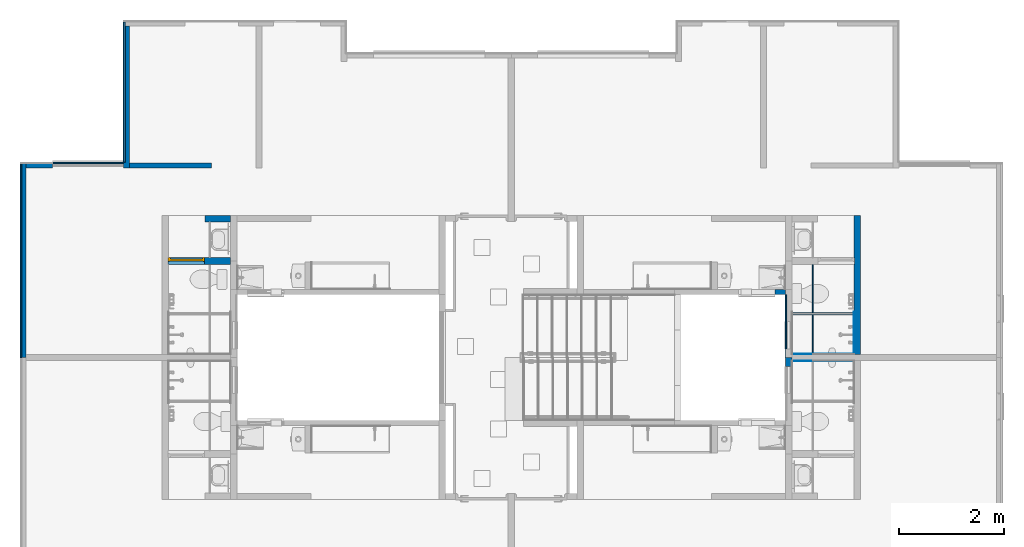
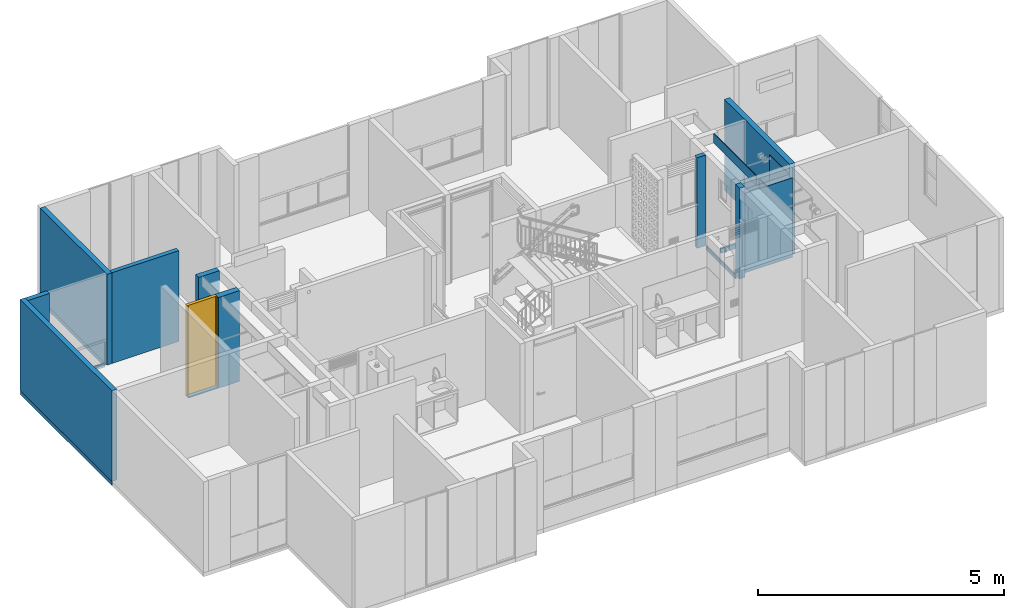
# One storey, part 15 of 48: 18 walls, 1 door, 2 openings.
"""IFC4 building model written with IfcOpenShell, lengths in metres."""

from ifc_helpers import new_model, entity, si_unit, converted_unit, derived_unit, direction, frame, origin, place, context, subcontext, project, spatial, indexed_curve, outline, extrude, polygons, source, transform, mapped, material, constituent, constituent_set, type_object, type_shapes, element, fill, save


model = new_model("IFC4")

# Units and contexts
model_context = context("Model", 3, precision=1e-05, world=origin(), true_north=direction((6.123031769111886e-17, 1.0)))
body_context = subcontext(model_context, "Body", "Model", "MODEL_VIEW")
ifc_project = project(units=[si_unit("LENGTHUNIT", "METRE"), si_unit("AREAUNIT", "SQUARE_METRE"), si_unit("VOLUMEUNIT", "CUBIC_METRE"), converted_unit("PLANEANGLEUNIT", "DEGREE", entity("IfcRatioMeasure", 0.017453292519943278), si_unit("PLANEANGLEUNIT", "RADIAN"), dimensions=[0, 0, 0, 0, 0, 0, 0]), si_unit("MASSUNIT", "GRAM", prefix="KILO"), derived_unit("MASSDENSITYUNIT", [(si_unit("MASSUNIT", "GRAM", prefix="KILO"), 1), (si_unit("LENGTHUNIT", "METRE"), -3)]), derived_unit("IONCONCENTRATIONUNIT", [(si_unit("MASSUNIT", "GRAM", prefix="KILO"), 1), (si_unit("LENGTHUNIT", "METRE"), -3)]), derived_unit("MOMENTOFINERTIAUNIT", [(si_unit("LENGTHUNIT", "METRE"), 4)]), si_unit("TIMEUNIT", "SECOND"), si_unit("FREQUENCYUNIT", "HERTZ"), si_unit("THERMODYNAMICTEMPERATUREUNIT", "DEGREE_CELSIUS"), derived_unit("THERMALTRANSMITTANCEUNIT", [(si_unit("MASSUNIT", "GRAM", prefix="KILO"), 1), (si_unit("THERMODYNAMICTEMPERATUREUNIT", "KELVIN"), -1), (si_unit("TIMEUNIT", "SECOND"), -3)]), derived_unit("THERMALCONDUCTANCEUNIT", [(si_unit("MASSUNIT", "GRAM", prefix="KILO"), 1), (si_unit("THERMODYNAMICTEMPERATUREUNIT", "KELVIN"), -1), (si_unit("TIMEUNIT", "SECOND"), -3), (si_unit("LENGTHUNIT", "METRE"), 1)]), derived_unit("VOLUMETRICFLOWRATEUNIT", [(si_unit("LENGTHUNIT", "METRE"), 3), (si_unit("TIMEUNIT", "SECOND"), -1)]), derived_unit("MASSFLOWRATEUNIT", [(si_unit("MASSUNIT", "GRAM", prefix="KILO"), 1), (si_unit("TIMEUNIT", "SECOND"), -1)]), derived_unit("ROTATIONALFREQUENCYUNIT", [(si_unit("TIMEUNIT", "SECOND"), -1)]), si_unit("ELECTRICCURRENTUNIT", "AMPERE"), si_unit("ELECTRICVOLTAGEUNIT", "VOLT"), si_unit("POWERUNIT", "WATT"), si_unit("FORCEUNIT", "NEWTON", prefix="KILO"), si_unit("ILLUMINANCEUNIT", "LUX"), si_unit("LUMINOUSFLUXUNIT", "LUMEN"), si_unit("LUMINOUSINTENSITYUNIT", "CANDELA"), derived_unit("USERDEFINED", [(si_unit("MASSUNIT", "GRAM", prefix="KILO"), -1), (si_unit("LENGTHUNIT", "METRE"), -2), (si_unit("TIMEUNIT", "SECOND"), 3), (si_unit("LUMINOUSFLUXUNIT", "LUMEN"), 1)]), derived_unit("USERDEFINED", [(si_unit("MASSUNIT", "GRAM", prefix="KILO"), 1), (si_unit("TIMEUNIT", "SECOND"), -3), (si_unit("LENGTHUNIT", "METRE"), 3), (si_unit("ELECTRICCURRENTUNIT", "AMPERE"), -2)]), derived_unit("SOUNDPOWERUNIT", [(si_unit("MASSUNIT", "GRAM", prefix="KILO"), 1), (si_unit("TIMEUNIT", "SECOND"), -3), (si_unit("LENGTHUNIT", "METRE"), 2)]), derived_unit("SOUNDPRESSUREUNIT", [(si_unit("MASSUNIT", "GRAM", prefix="KILO"), 1), (si_unit("LENGTHUNIT", "METRE"), -1), (si_unit("TIMEUNIT", "SECOND"), -2)]), derived_unit("LINEARVELOCITYUNIT", [(si_unit("LENGTHUNIT", "METRE"), 1), (si_unit("TIMEUNIT", "SECOND"), -1)]), si_unit("PRESSUREUNIT", "PASCAL"), derived_unit("USERDEFINED", [(si_unit("MASSUNIT", "GRAM", prefix="KILO"), 1), (si_unit("LENGTHUNIT", "METRE"), -2), (si_unit("TIMEUNIT", "SECOND"), -2)]), derived_unit("LINEARFORCEUNIT", [(si_unit("MASSUNIT", "GRAM", prefix="KILO"), 1), (si_unit("TIMEUNIT", "SECOND"), -2)]), derived_unit("PLANARFORCEUNIT", [(si_unit("MASSUNIT", "GRAM", prefix="KILO"), 1), (si_unit("LENGTHUNIT", "METRE"), -1), (si_unit("TIMEUNIT", "SECOND"), -2)]), derived_unit("SPECIFICHEATCAPACITYUNIT", [(si_unit("THERMODYNAMICTEMPERATUREUNIT", "KELVIN"), -1), (si_unit("LENGTHUNIT", "METRE"), 2), (si_unit("TIMEUNIT", "SECOND"), -2)]), derived_unit("HEATINGVALUEUNIT", [(si_unit("LENGTHUNIT", "METRE"), 2), (si_unit("TIMEUNIT", "SECOND"), -2)]), derived_unit("VAPORPERMEABILITYUNIT", [(si_unit("LENGTHUNIT", "METRE"), -1), (si_unit("TIMEUNIT", "SECOND"), 1)]), derived_unit("DYNAMICVISCOSITYUNIT", [(si_unit("MASSUNIT", "GRAM", prefix="KILO"), 1), (si_unit("TIMEUNIT", "SECOND"), -1), (si_unit("LENGTHUNIT", "METRE"), -1)]), derived_unit("THERMALEXPANSIONCOEFFICIENTUNIT", [(si_unit("THERMODYNAMICTEMPERATUREUNIT", "KELVIN"), -1)]), derived_unit("MODULUSOFELASTICITYUNIT", [(si_unit("MASSUNIT", "GRAM", prefix="KILO"), 1), (si_unit("LENGTHUNIT", "METRE"), -1), (si_unit("TIMEUNIT", "SECOND"), -2)]), derived_unit("ISOTHERMALMOISTURECAPACITYUNIT", [(si_unit("LENGTHUNIT", "METRE"), 3), (si_unit("MASSUNIT", "GRAM", prefix="KILO"), -1)]), derived_unit("MOISTUREDIFFUSIVITYUNIT", [(si_unit("TIMEUNIT", "SECOND"), -1), (si_unit("LENGTHUNIT", "METRE"), 2)])], contexts=[model_context])

# Site, building, storey
site_placement = place(None, origin())
site = spatial("IfcSite", under=ifc_project, at=site_placement, Name="Default", CompositionType="ELEMENT")
building_placement = place(site_placement, origin())
building = spatial("IfcBuilding", under=site, at=building_placement, CompositionType="ELEMENT")
storey_placement = place(building_placement, frame((0.0, 0.0, 4.700000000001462)))
storey = spatial("IfcBuildingStorey", under=building, at=storey_placement, Name="Nivel 3", CompositionType="ELEMENT", Elevation=4.700000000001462)

# Walls
ifc_material_1 = material(Name="Ladrillo claro (Aire)", Category="Materials")
wall_type_1 = type_object("IfcWallType", Name="Basic Wall:B2010 - 0.115m - Muro exterior en mampostería - Ladrillo", PredefinedType="STANDARD")
wall_1_placement = place(storey_placement, frame((0.0, -2.6950000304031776, 0.0), z_axis=(0.0, 0.0, 1.0), x_axis=(0.0, -1.0, 0.0)))
element("IfcWall", 1, at=wall_1_placement, inside=storey, type_object=wall_type_1, material=ifc_material_1, Name="Basic Wall:B2010 - 0.115m - Muro exterior en mampostería - Ladrillo", ObjectType="Basic Wall:B2010 - 0.115m - Muro exterior en mampostería - Ladrillo", PredefinedType="NOTDEFINED", context=body_context, shape_type="SweptSolid", body=[
    extrude(outline(indexed_curve([(3.7299999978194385, 0.0575), (-8.90011336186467e-17, 0.0575), (8.90011336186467e-17, -0.0575), (3.7299999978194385, -0.0575), (3.7299999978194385, 0.0575)], self_intersect=False)), origin(), (0.0, 0.0, 1.0), 2.2500000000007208),
])
wall_2_placement = place(storey_placement, frame((1.9749999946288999, -2.8100000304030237, 0.0), z_axis=(0.0, 0.0, 1.0), x_axis=(0.0, 1.0, 0.0)))
element("IfcWall", 2, at=wall_2_placement, inside=storey, type_object=wall_type_1, material=ifc_material_1, Name="Basic Wall:B2010 - 0.115m - Muro exterior en mampostería - Ladrillo", ObjectType="Basic Wall:B2010 - 0.115m - Muro exterior en mampostería - Ladrillo", PredefinedType="NOTDEFINED", context=body_context, shape_type="SweptSolid", body=[
    extrude(outline(indexed_curve([(2.7150000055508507, 0.05750000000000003), (-1.0301981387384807e-16, 0.057499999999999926), (1.0301981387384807e-16, -0.057499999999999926), (2.7150000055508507, -0.057499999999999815), (2.7150000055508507, 0.05750000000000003)], self_intersect=False)), origin(), (0.0, 0.0, 1.0), 2.2500000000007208),
])
ifc_material_2 = material(Name="LADRILLO CLARO", Category="Materials")
wall_type_2 = type_object("IfcWallType", Name="Basic Wall:B2010 - 0.115m - ME mampostería no estructural - Ladrillo", PredefinedType="STANDARD")
wall_3_placement = place(storey_placement, frame((0.05750000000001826, -2.7525000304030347, 0.0)))
element("IfcWall", 3, at=wall_3_placement, inside=storey, type_object=wall_type_2, material=ifc_material_2, Name="Basic Wall:B2010 - 0.115m - ME mampostería no estructural - Ladrillo", ObjectType="Basic Wall:B2010 - 0.115m - ME mampostería no estructural - Ladrillo", PredefinedType="NOTDEFINED", context=body_context, shape_type="SweptSolid", body=[
    extrude(outline(indexed_curve([(0.5099999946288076, 0.05749999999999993), (-3.859013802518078e-18, 0.057499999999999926), (3.859013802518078e-18, -0.057499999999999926), (0.5099999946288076, -0.05749999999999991), (0.5099999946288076, 0.05749999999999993)], self_intersect=False)), origin(), (0.0, 0.0, 1.0), 2.2500000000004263),
])
ifc_material_3 = material(Name="Concreto (Aire)", Category="Materials")
wall_type_3 = type_object("IfcWallType", Name="Basic Wall:B2010 - 0.10m - Muro interior en concreto", PredefinedType="STANDARD")
wall_4_placement = place(storey_placement, frame((2.032499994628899, -2.7600000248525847, 0.0)))
element("IfcWall", 4, at=wall_4_placement, inside=storey, type_object=wall_type_3, material=ifc_material_3, Name="Basic Wall:B2010 - 0.10m - Muro interior en concreto", ObjectType="Basic Wall:B2010 - 0.10m - Muro interior en concreto", PredefinedType="NOTDEFINED", context=body_context, shape_type="SweptSolid", body=[
    extrude(outline(indexed_curve([(1.5699999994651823, 0.04999999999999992), (6.03923499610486e-18, 0.05), (-6.03923499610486e-18, -0.05), (1.5699999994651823, -0.050000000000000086), (1.5699999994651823, 0.04999999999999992)], self_intersect=False)), origin(), (0.0, 0.0, 1.0), 2.2499999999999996),
])
ifc_material_4 = material(Name="Pañete", Category="Materials")
ifc_constituent_1 = constituent(ifc_material_4, Name="Pañete", Category="Materials")
ifc_constituent_2 = constituent(ifc_material_1, Name="Ladrillo claro (Aire)", Category="Materials")
ifc_constituent_set_1 = constituent_set(constituents=[ifc_constituent_1, ifc_constituent_2], Name="Basic Wall:B2010 - 0.115m - Muro interior en mampostería - Ladrillo + Pañete")
wall_type_4 = type_object("IfcWallType", Name="Basic Wall:B2010 - 0.115m - Muro interior en mampostería - Ladrillo + Pañete", PredefinedType="STANDARD", material=ifc_constituent_set_1)
wall_5_placement = place(storey_placement, frame((3.4724999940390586, -3.7725000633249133, 0.0)))
element("IfcWall", 5, at=wall_5_placement, inside=storey, type_object=wall_type_4, material=ifc_constituent_set_1, Name="Basic Wall:B2010 - 0.115m - Muro interior en mampostería - Ladrillo + Pañete", ObjectType="Basic Wall:B2010 - 0.115m - Muro interior en mampostería - Ladrillo + Pañete", PredefinedType="NOTDEFINED", context=body_context, shape_type="SweptSolid", body=[
    extrude(outline(indexed_curve([(-0.0050000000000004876, -0.24500000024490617), (0.004999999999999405, -0.24500000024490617), (0.005000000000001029, 0.24500000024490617), (-0.004999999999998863, 0.24500000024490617), (-0.0050000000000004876, -0.24500000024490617)], self_intersect=False)), frame((0.24500000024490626, -0.05750000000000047, 0.0), z_axis=(0.0, 0.0, 1.0), x_axis=(0.0, 1.0, 0.0)), (0.0, 0.0, 1.0), 2.2500000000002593),
    extrude(outline(indexed_curve([(-0.057499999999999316, -0.2450000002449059), (0.05750000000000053, -0.24500000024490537), (0.05749999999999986, 0.24500000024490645), (-0.05749999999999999, 0.24500000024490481), (-0.057499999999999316, -0.2450000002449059)], self_intersect=False)), frame((0.24500000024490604, 0.004999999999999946, 0.0), z_axis=(0.0, 0.0, 1.0), x_axis=(0.0, -1.0, 0.0)), (0.0, 0.0, 1.0), 2.2500000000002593),
])

# Wall, opening
wall_6_placement = place(storey_placement, frame((15.929998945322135, -3.7100000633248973, 0.0), z_axis=(0.0, 0.0, 1.0), x_axis=(0.0, -1.0, 0.0)))
wall_6 = element("IfcWall", 6, at=wall_6_placement, inside=storey, type_object=wall_type_4, material=ifc_constituent_set_1, Name="Basic Wall:B2010 - 0.115m - Muro interior en mampostería - Ladrillo + Pañete", ObjectType="Basic Wall:B2010 - 0.115m - Muro interior en mampostería - Ladrillo + Pañete", PredefinedType="NOTDEFINED", context=body_context, shape_type="SweptSolid", body=[
    extrude(outline(indexed_curve([(-0.7550000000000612, -1.1920833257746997), (1.4949999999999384, -1.1920833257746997), (1.4949999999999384, -0.38708332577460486), (-0.7249999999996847, -0.38708332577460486), (-0.7249999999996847, -0.2520833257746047), (1.4949999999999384, -0.2520833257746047), (1.4949999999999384, 1.4629166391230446), (-0.7550000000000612, 1.4629166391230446), (-0.7550000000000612, 0.7129166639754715), (-0.7550000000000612, 0.662916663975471), (-0.7550000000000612, -0.2520833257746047), (-0.7550000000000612, -0.38708332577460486), (-0.7550000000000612, -1.1920833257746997)], self_intersect=False)), frame((1.1920833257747, -0.062499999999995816, 0.7550000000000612), z_axis=(0.0, 1.0, 0.0), x_axis=(0.0, 0.0, 1.0)), (0.0, 0.0, 1.0), 0.009999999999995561),
    extrude(outline(indexed_curve([(-0.05750000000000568, -1.3274999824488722), (0.05749999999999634, -1.3274999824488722), (0.05750000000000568, 1.3274999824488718), (-0.05749999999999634, 1.3274999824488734), (-0.05750000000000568, -1.3274999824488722)], self_intersect=False)), frame((1.3274999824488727, 0.005000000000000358, 0.0), z_axis=(0.0, 0.0, 1.0), x_axis=(0.0, -1.0, 0.0)), (0.0, 0.0, 1.0), 2.2499999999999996),
])
opening_1_placement = place(wall_6_placement, origin())
element("IfcOpeningElement", 7, at=opening_1_placement, cuts=wall_6, Name="Basic Wall:B2010 - 0.115m - Muro interior en mampostería - Ladrillo + Pañete", PredefinedType="OPENING", context=body_context, shape_type="SweptSolid", body=[
    extrude(outline(indexed_curve([(-0.06749999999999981, -1.1099999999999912), (0.06750000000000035, -1.1099999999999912), (0.06750000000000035, 1.1099999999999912), (-0.06749999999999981, 1.1099999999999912), (-0.06749999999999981, -1.1099999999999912)], self_intersect=False)), frame((0.8725000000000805, -0.7524999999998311, 1.1400000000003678), z_axis=(0.0, 1.0, 0.0), x_axis=(1.0, 0.0, 0.0)), (0.0, 0.0, 1.0), 0.7000000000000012),
])

# Wall, opening, door
ifc_constituent_3 = constituent(ifc_material_4, Name="Pañete", Category="Materials")
ifc_constituent_4 = constituent(ifc_material_2, Name="LADRILLO CLARO", Category="Materials")
ifc_constituent_5 = constituent(ifc_material_4, Name="Pañete (2)", Category="Materials")
ifc_constituent_set_2 = constituent_set(constituents=[ifc_constituent_3, ifc_constituent_4, ifc_constituent_5], Name="Basic Wall:B2010 - 0.115m - MI  mampostería no estructural - Pañete + Ladrillo + Pañete")
wall_type_5 = type_object("IfcWallType", Name="Basic Wall:B2010 - 0.115m - MI  mampostería no estructural - Pañete + Ladrillo + Pañete", PredefinedType="STANDARD", material=ifc_constituent_set_2)
wall_7_placement = place(storey_placement, frame((3.962499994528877, -4.582500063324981, 0.0), z_axis=(0.0, 0.0, 1.0), x_axis=(-1.0, 0.0, 0.0)))
wall_7 = element("IfcWall", 8, at=wall_7_placement, inside=storey, type_object=wall_type_5, material=ifc_constituent_set_2, Name="Basic Wall:B2010 - 0.115m - MI  mampostería no estructural - Pañete + Ladrillo + Pañete", ObjectType="Basic Wall:B2010 - 0.115m - MI  mampostería no estructural - Pañete + Ladrillo + Pañete", PredefinedType="NOTDEFINED", context=body_context, shape_type="SweptSolid", body=[
    extrude(outline(indexed_curve([(-1.1325000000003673, -0.6649994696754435), (-1.102500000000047, -0.6649994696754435), (-1.102500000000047, 0.025000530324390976), (1.1175000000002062, 0.025000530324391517), (1.1175000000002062, 0.10999946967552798), (1.1175000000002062, 0.12999946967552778), (1.1175000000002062, 0.5199994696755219), (-1.1325000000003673, 0.5199994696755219), (-1.1325000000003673, -0.6649994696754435)], self_intersect=False)), frame((0.5199994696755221, 0.06750000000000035, 1.1325000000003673), z_axis=(0.0, -1.0, 0.0), x_axis=(0.0, 0.0, 1.0)), (0.0, 0.0, 1.0), 0.009999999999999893),
    extrude(outline(indexed_curve([(-0.7600000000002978, -0.6249996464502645), (-0.7299999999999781, -0.6249996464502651), (-0.7299999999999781, 0.06500035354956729), (1.4900000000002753, 0.06500035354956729), (1.4900000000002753, 0.5599992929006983), (-0.7600000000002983, 0.5599992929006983), (-0.7600000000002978, -0.6249996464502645)], self_intersect=False)), frame((0.5599992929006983, -0.05750000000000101, 0.7600000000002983), z_axis=(0.0, -1.0, 0.0), x_axis=(0.0, 0.0, 1.0)), (0.0, 0.0, 1.0), 0.010000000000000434),
    extrude(outline(indexed_curve([(-0.7600000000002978, -0.6316663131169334), (-0.7299999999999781, -0.6316663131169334), (-0.7299999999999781, 0.06833368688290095), (1.4900000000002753, 0.06833368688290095), (1.4900000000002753, 0.5633326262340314), (-0.7600000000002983, 0.5633326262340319), (-0.7600000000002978, -0.6316663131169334)], self_intersect=False)), frame((0.563332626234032, 0.057499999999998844, 0.7600000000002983), z_axis=(0.0, -1.0, 0.0), x_axis=(0.0, 0.0, 1.0)), (0.0, 0.0, 1.0), 0.11499999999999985),
])
opening_2_placement = place(wall_7_placement, frame((0.49499893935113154, -0.06749999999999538, 0.0299999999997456)))
opening_2 = element("IfcOpeningElement", 9, at=opening_2_placement, cuts=wall_7, Name="C1030 - Puerta batiente - Madera+Aluminio:C1030 - 0.70 x 2.22 - Puerta batiente - Madera+ Metal:1", PredefinedType="OPENING", context=body_context, shape_type="SweptSolid", body=[
    extrude(outline(indexed_curve([(-2.8961849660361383e-19, 1.3535839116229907e-16), (2.2199999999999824, 1.3535839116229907e-16), (2.2199999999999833, 0.7000000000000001), (1.438182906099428e-16, 0.7000000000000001), (-2.8961849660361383e-19, 1.3535839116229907e-16)], self_intersect=False)), frame((0.0, 0.0, 0.0), z_axis=(0.0, 1.0, 0.0), x_axis=(0.0, 0.0, 1.0)), (0.0, 0.0, 1.0), 0.13499999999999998),
])
ifc_material_5 = material(Name="<Unnamed>")
door_type = type_object("IfcDoorType", Name="C1030 - Puerta batiente - Madera+Aluminio:C1030 - 0.70 x 2.22 - Puerta batiente - Madera+ Metal", OperationType="SINGLE_SWING_RIGHT", PredefinedType="DOOR", material=ifc_material_5)
shared_shape = source(origin(), body_context, "Body", "Tessellation", [
    polygons([(0.030000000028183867, 0.06499999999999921, 0.009880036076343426), (0.6699999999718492, 0.06499999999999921, 0.009880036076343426), (0.6699999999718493, 0.0324999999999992, 0.009880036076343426), (0.030000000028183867, 0.0324999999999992, 0.009880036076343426), (0.030000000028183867, 0.06499999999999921, 2.2050000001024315), (0.030000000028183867, 0.0324999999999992, 2.2050000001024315), (0.6699999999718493, 0.0324999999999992, 2.2050000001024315), (0.6699999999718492, 0.06499999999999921, 2.2050000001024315)], [[[1, 2, 3, 4]], [[5, 1, 4, 6]], [[6, 4, 3, 7]], [[7, 3, 2, 8]], [[8, 2, 1, 5]], [[5, 6, 7, 8]]], closed=True),
    polygons([(0.015000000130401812, 0.0649999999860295, 0.0), (0.015000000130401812, 0.07999999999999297, 0.0), (0.030000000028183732, 0.07999999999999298, 0.0), (0.030000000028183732, 0.04000000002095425, 0.0), (0.045000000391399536, 0.04000000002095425, 0.0), (0.045000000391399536, -1.6919798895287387e-17, 0.0), (0.015000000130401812, -5.075939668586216e-17, 0.0), (0.015000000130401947, 0.007499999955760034, 0.0), (1.651372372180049e-14, 0.0074999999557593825, 0.0), (1.651372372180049e-14, 0.0649999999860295, 0.0), (1.651372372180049e-14, 0.0074999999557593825, 2.2199999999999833), (0.015000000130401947, 0.007499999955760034, 2.2199999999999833), (0.015000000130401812, 0.0649999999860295, 2.2199999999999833), (1.651372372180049e-14, 0.0649999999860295, 2.2199999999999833), (0.6849999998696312, 0.06499999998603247, 0.0), (0.7000000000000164, 0.06499999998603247, 0.0), (0.7000000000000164, 0.007499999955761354, 0.0), (0.6849999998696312, 0.007499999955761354, 0.0), (0.6849999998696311, 0.0, 0.0), (0.6549999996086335, 0.0, 0.0), (0.6549999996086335, 0.04000000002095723, 0.0), (0.6699999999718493, 0.04000000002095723, 0.0), (0.6699999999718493, 0.07999999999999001, 0.0), (0.6849999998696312, 0.07999999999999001, 0.0), (0.7000000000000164, 0.06499999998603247, 2.2199999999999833), (0.6849999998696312, 0.06499999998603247, 2.2199999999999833), (0.6849999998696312, 0.007499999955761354, 2.2199999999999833), (0.7000000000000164, 0.007499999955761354, 2.2199999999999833), (0.6549999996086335, 0.0, 2.189999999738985), (0.6549999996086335, 0.03250000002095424, 2.189999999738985), (0.6549999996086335, 0.03250000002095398, 2.2050000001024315), (0.6549999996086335, 0.04000000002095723, 2.2050000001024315), (0.045000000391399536, 0.04000000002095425, 2.2050000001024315), (0.045000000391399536, 0.03250000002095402, 2.2050000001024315), (0.045000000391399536, 0.032500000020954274, 2.189999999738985), (0.045000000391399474, -1.6919798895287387e-17, 2.189999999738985), (0.6699999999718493, 0.04000000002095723, 2.2050000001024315), (0.6699999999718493, 0.07249999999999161, 2.2050000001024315), (0.6699999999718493, 0.07249999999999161, 2.2199999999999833), (0.6699999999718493, 0.07999999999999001, 2.2199999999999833), (0.030000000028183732, 0.07999999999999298, 2.2199999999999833), (0.030000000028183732, 0.07249999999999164, 2.2199999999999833), (0.030000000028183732, 0.07249999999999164, 2.2050000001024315), (0.030000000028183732, 0.04000000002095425, 2.2050000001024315), (0.6849999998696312, 0.07999999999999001, 2.2199999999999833), (0.6849999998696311, 0.0, 2.2199999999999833), (0.015000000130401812, -5.075939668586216e-17, 2.2199999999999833), (0.015000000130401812, 0.07999999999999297, 2.2199999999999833)], [[[1, 2, 3, 4, 5, 6, 7, 8, 9, 10]], [[11, 9, 8, 12]], [[13, 1, 10, 14]], [[15, 16, 17, 18, 19, 20, 21, 22, 23, 24]], [[25, 16, 15, 26]], [[27, 18, 17, 28]], [[20, 29, 30, 31, 32, 21]], [[5, 33, 34, 35, 36, 6]], [[22, 37, 38, 39, 40, 23]], [[3, 41, 42, 43, 44, 4]], [[28, 17, 16, 25]], [[14, 10, 9, 11]], [[26, 15, 24, 45]], [[45, 24, 23, 40]], [[21, 32, 37, 22]], [[19, 46, 47, 7, 6, 36, 29, 20]], [[46, 19, 18, 27]], [[12, 8, 7, 47]], [[48, 2, 1, 13]], [[26, 45, 40, 39, 42, 41, 48, 13, 14, 11, 12, 47, 46, 27, 28, 25]], [[38, 37, 32, 31, 34, 33, 44, 43]], [[36, 35, 30, 29]], [[4, 44, 33, 5]], [[41, 3, 2, 48]], [[35, 34, 31, 30]], [[43, 42, 39, 38]]], closed=True),
])
type_shapes(door_type, [shared_shape])
door_placement = place(opening_2_placement, origin())
door = element("IfcDoor", 10, at=door_placement, inside=storey, type_object=door_type, material=ifc_material_5, Name="C1030 - Puerta batiente - Madera+Aluminio:C1030 - 0.70 x 2.22 - Puerta batiente - Madera+ Metal", ObjectType="C1030 - Puerta batiente - Madera+Aluminio:C1030 - 0.70 x 2.22 - Puerta batiente - Madera+ Metal", OperationType="SINGLE_SWING_RIGHT", OverallHeight=2.2199999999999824, OverallWidth=0.7000000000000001, PredefinedType="DOOR", context=body_context, shape_type="MappedRepresentation", body=[
    mapped(shared_shape, transform((0.0, 0.0, 0.0), scale=1.0)),
])
fill(opening_2, door)

# Walls
ifc_material_6 = material(Name="PINTURA BLANCA PARA EXTERIORES", Category="Materials")
ifc_constituent_6 = constituent(ifc_material_6, Name="PINTURA BLANCA PARA EXTERIORES", Category="Materials")
ifc_material_7 = material(Name="Concreto - Fundido in situ", Category="Materials")
ifc_constituent_7 = constituent(ifc_material_7, Name="Concreto - Fundido in situ", Category="Materials")
ifc_constituent_set_3 = constituent_set(constituents=[ifc_constituent_6, ifc_constituent_7], Name="Basic Wall:B2010 - 0.10m - MI no estructural- Concreto + repello+ pintura blanca")
wall_type_6 = type_object("IfcWallType", Name="Basic Wall:B2010 - 0.10m - MI no estructural- Concreto + repello+ pintura blanca", PredefinedType="STANDARD", material=ifc_constituent_set_3)
wall_8_placement = place(storey_placement, frame((14.557500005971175, -5.175000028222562, 0.0), z_axis=(0.0, 0.0, 1.0), x_axis=(-1.0, 0.0, 0.0)))
element("IfcWall", 11, at=wall_8_placement, inside=storey, type_object=wall_type_6, material=ifc_constituent_set_3, Name="Basic Wall:B2010 - 0.10m - MI no estructural- Concreto + repello+ pintura blanca", ObjectType="Basic Wall:B2010 - 0.10m - MI no estructural- Concreto + repello+ pintura blanca", PredefinedType="NOTDEFINED", context=body_context, shape_type="SweptSolid", body=[
    extrude(outline(indexed_curve([(-0.000500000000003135, -0.10000000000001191), (0.0004999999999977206, -0.10000000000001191), (0.0005000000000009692, 0.10000000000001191), (-0.0004999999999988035, 0.10000000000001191), (-0.000500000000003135, -0.10000000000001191)], self_intersect=False)), frame((0.10000000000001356, 0.04999999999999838, 0.0), z_axis=(0.0, 0.0, 1.0), x_axis=(0.0, -1.0, 0.0)), (0.0, 0.0, 1.0), 2.2499999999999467),
    extrude(outline(indexed_curve([(-0.04999999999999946, -0.10000000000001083), (0.050000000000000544, -0.10000000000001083), (0.04999999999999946, 0.10000000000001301), (-0.04999999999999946, 0.10000000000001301), (-0.04999999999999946, -0.10000000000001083)], self_intersect=False)), frame((0.10000000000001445, -0.0005000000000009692, 0.0), z_axis=(0.0, 0.0, 1.0), x_axis=(0.0, 1.0, 0.0)), (0.0, 0.0, 1.0), 2.2499999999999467),
])
ifc_material_8 = material(Name="Ceramica 0.25m x 0.35m", Category="Materials")
wall_type_7 = type_object("IfcWallType", Name="Basic Wall:C2010 - 0.25 x 0.35 - Enchape cerámico", PredefinedType="STANDARD")
wall_9_placement = place(storey_placement, frame((15.862498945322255, -6.365000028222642, 0.02999999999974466), z_axis=(0.0, 0.0, 1.0), x_axis=(0.0, 1.0, 0.0)))
element("IfcWall", 12, at=wall_9_placement, inside=storey, type_object=wall_type_7, material=ifc_material_8, Name="Basic Wall:C2010 - 0.25 x 0.35 - Enchape cerámico", ObjectType="Basic Wall:C2010 - 0.25 x 0.35 - Enchape cerámico", PredefinedType="NOTDEFINED", context=body_context, shape_type="SweptSolid", body=[
    extrude(outline(indexed_curve([(0.8099999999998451, 0.005000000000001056), (-1.654422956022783e-19, 0.005000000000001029), (1.654422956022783e-19, -0.005000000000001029), (0.8099999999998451, -0.005000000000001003), (0.8099999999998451, 0.005000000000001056)], self_intersect=False)), origin(), (0.0, 0.0, 1.0), 1.9700000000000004),
])
wall_10_placement = place(storey_placement, frame((15.857498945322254, -6.360000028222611, 0.029999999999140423), z_axis=(0.0, 0.0, 1.0), x_axis=(-1.0, 0.0, 0.0)))
element("IfcWall", 13, at=wall_10_placement, inside=storey, type_object=wall_type_7, material=ifc_material_8, Name="Basic Wall:C2010 - 0.25 x 0.35 - Enchape cerámico", ObjectType="Basic Wall:C2010 - 0.25 x 0.35 - Enchape cerámico", PredefinedType="NOTDEFINED", context=body_context, shape_type="SweptSolid", body=[
    extrude(outline(indexed_curve([(1.1649989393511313, 0.004999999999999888), (-9.047226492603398e-18, 0.004999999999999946), (9.047226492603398e-18, -0.004999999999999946), (1.1649989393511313, -0.0050000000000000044), (1.1649989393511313, 0.004999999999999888)], self_intersect=False)), origin(), (0.0, 0.0, 1.0), 1.9700000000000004),
])
wall_11_placement = place(storey_placement, frame((15.857498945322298, -6.490000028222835, 0.029999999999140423), z_axis=(0.0, 0.0, 1.0), x_axis=(-1.0, 0.0, 0.0)))
element("IfcWall", 14, at=wall_11_placement, inside=storey, type_object=wall_type_7, material=ifc_material_8, Name="Basic Wall:C2010 - 0.25 x 0.35 - Enchape cerámico", ObjectType="Basic Wall:C2010 - 0.25 x 0.35 - Enchape cerámico", PredefinedType="NOTDEFINED", context=body_context, shape_type="SweptSolid", body=[
    extrude(outline(indexed_curve([(1.1649989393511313, 0.0050000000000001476), (8.43490309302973e-18, 0.004999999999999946), (-8.43490309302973e-18, -0.004999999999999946), (1.1649989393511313, -0.004999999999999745), (1.1649989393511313, 0.0050000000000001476)], self_intersect=False)), origin(), (0.0, 0.0, 1.0), 1.9700000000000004),
])
ifc_material_9 = material(Name="0 muro divisorio", Category="Materials")
wall_type_8 = type_object("IfcWallType", Name="Basic Wall:B2010 - 0.05m - Poyo para duchas - Concreto", PredefinedType="STANDARD")
wall_12_placement = place(storey_placement, frame((15.867498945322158, -5.5900000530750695, 0.0), z_axis=(0.0, 0.0, 1.0), x_axis=(-1.0, 0.0, 0.0)))
element("IfcWall", 15, at=wall_12_placement, inside=storey, type_object=wall_type_8, material=ifc_material_9, Name="Basic Wall:B2010 - 0.05m - Poyo para duchas - Concreto", ObjectType="Basic Wall:B2010 - 0.05m - Poyo para duchas - Concreto", PredefinedType="NOTDEFINED", context=body_context, shape_type="SweptSolid", body=[
    extrude(outline(indexed_curve([(1.1749989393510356, 0.02499999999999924), (-2.4304076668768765e-16, 0.02499999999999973), (2.4304076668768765e-16, -0.02499999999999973), (1.1749989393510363, -0.025000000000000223), (1.1749989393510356, 0.02499999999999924)], self_intersect=False)), origin(), (0.0, 0.0, 1.0), 0.11000000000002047),
])
ifc_material_10 = material(Name="Plasterboard", Category="Materials")
wall_type_9 = type_object("IfcWallType", Name="Basic Wall:C1070 - 0.02m - Plafón - Drywall", PredefinedType="STANDARD")
wall_13_placement = place(storey_placement, frame((15.082500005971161, -6.365000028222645, 2.019999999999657), z_axis=(0.0, 0.0, 1.0), x_axis=(0.0, 1.0, 0.0)))
element("IfcWall", 16, at=wall_13_placement, inside=storey, type_object=wall_type_9, material=ifc_material_10, Name="Basic Wall:C1070 - 0.02m - Plafón - Drywall", ObjectType="Basic Wall:C1070 - 0.02m - Plafón - Drywall", PredefinedType="NOTDEFINED", context=body_context, shape_type="SweptSolid", body=[
    extrude(outline(indexed_curve([(1.7149999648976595, 0.010000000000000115), (-7.706224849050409e-17, 0.009999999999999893), (7.706224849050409e-17, -0.009999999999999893), (1.7149999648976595, -0.00999999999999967), (1.7149999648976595, 0.010000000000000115)], self_intersect=False)), origin(), (0.0, 0.0, 1.0), 0.23000000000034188),
])
ifc_constituent_8 = constituent(ifc_material_4, Name="Pañete", Category="Materials")
ifc_constituent_9 = constituent(ifc_material_2, Name="LADRILLO CLARO", Category="Materials")
ifc_constituent_set_4 = constituent_set(constituents=[ifc_constituent_8, ifc_constituent_9], Name="Basic Wall:B2010 - 0.115m - MI  mampostería no estructural - Ladrillo + Pañete")
wall_type_10 = type_object("IfcWallType", Name="Basic Wall:B2010 - 0.115m - MI  mampostería no estructural - Ladrillo + Pañete", PredefinedType="STANDARD", material=ifc_constituent_set_4)
wall_14_placement = place(storey_placement, frame((14.620000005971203, -6.592187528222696, 0.0), z_axis=(0.0, 0.0, 1.0), x_axis=(0.0, 1.0, 0.0)))
element("IfcWall", 17, at=wall_14_placement, inside=storey, type_object=wall_type_10, material=ifc_constituent_set_4, Name="Basic Wall:B2010 - 0.115m - MI  mampostería no estructural - Ladrillo + Pañete", ObjectType="Basic Wall:B2010 - 0.115m - MI  mampostería no estructural - Ladrillo + Pañete", PredefinedType="NOTDEFINED", context=body_context, shape_type="SweptSolid", body=[
    extrude(outline(indexed_curve([(-0.004999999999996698, -0.08359375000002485), (0.005000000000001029, -0.08359375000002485), (0.004999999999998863, 0.08359375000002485), (-0.004999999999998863, 0.08359375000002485), (-0.004999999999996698, -0.08359375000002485)], self_intersect=False)), frame((0.08359375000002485, -0.057500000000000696, 0.0), z_axis=(0.0, 0.0, 1.0), x_axis=(0.0, 1.0, 0.0)), (0.0, 0.0, 1.0), 2.2500000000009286),
    extrude(outline(indexed_curve([(-0.05750000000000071, -0.08359375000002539), (0.0575000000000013, -0.08359375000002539), (0.05750000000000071, 0.08359375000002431), (-0.0575000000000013, 0.08359375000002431), (-0.05750000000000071, -0.08359375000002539)], self_intersect=False)), frame((0.08359375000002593, 0.005000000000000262, 0.0), z_axis=(0.0, 0.0, 1.0), x_axis=(0.0, -1.0, 0.0)), (0.0, 0.0, 1.0), 2.2500000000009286),
])
wall_type_11 = type_object("IfcWallType", Name="Basic Wall:B2010 - 0.03m - ME enchape  no estructural - Ladrillo", PredefinedType="STANDARD")
wall_15_placement = place(storey_placement, frame((1.932499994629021, -0.010000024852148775, -0.1000000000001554), z_axis=(0.0, 0.0, 1.0), x_axis=(0.0, -1.0, 0.0)))
element("IfcWall", 18, at=wall_15_placement, inside=storey, type_object=wall_type_11, material=ifc_material_2, Name="Basic Wall:B2010 - 0.03m - ME enchape  no estructural - Ladrillo", ObjectType="Basic Wall:B2010 - 0.03m - ME enchape  no estructural - Ladrillo", PredefinedType="NOTDEFINED", context=body_context, shape_type="SweptSolid", body=[
    extrude(outline(indexed_curve([(2.6836602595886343, 0.015000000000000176), (1.2417119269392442e-18, 0.015000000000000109), (-1.2417119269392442e-18, -0.015000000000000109), (2.6836602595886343, -0.015000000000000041), (2.6836602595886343, 0.015000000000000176)], self_intersect=False)), origin(), (0.0, 0.0, 1.0), 0.1),
])
wall_16_placement = place(storey_placement, frame((-0.04249999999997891, -2.7250000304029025, -0.1000000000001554), z_axis=(0.0, 0.0, 1.0), x_axis=(0.0, -1.0, 0.0)))
element("IfcWall", 19, at=wall_16_placement, inside=storey, type_object=wall_type_11, material=ifc_material_2, Name="Basic Wall:B2010 - 0.03m - ME enchape  no estructural - Ladrillo", ObjectType="Basic Wall:B2010 - 0.03m - ME enchape  no estructural - Ladrillo", PredefinedType="NOTDEFINED", context=body_context, shape_type="SweptSolid", body=[
    extrude(outline(indexed_curve([(3.699999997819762, 0.015), (-2.796678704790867e-17, 0.015), (2.796678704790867e-17, -0.015), (3.699999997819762, -0.015000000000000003), (3.699999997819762, 0.015)], self_intersect=False)), origin(), (0.0, 0.0, 1.0), 0.1),
])
wall_17_placement = place(storey_placement, frame((0.5674999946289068, -2.710000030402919, -0.1000000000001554)))
element("IfcWall", 20, at=wall_17_placement, inside=storey, type_object=wall_type_11, material=ifc_material_2, Name="Basic Wall:B2010 - 0.03m - ME enchape  no estructural - Ladrillo", ObjectType="Basic Wall:B2010 - 0.03m - ME enchape  no estructural - Ladrillo", PredefinedType="NOTDEFINED", context=body_context, shape_type="SweptSolid", body=[
    extrude(outline(indexed_curve([(1.3500000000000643, 0.01499999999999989), (2.443197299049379e-18, 0.014999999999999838), (-2.443197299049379e-18, -0.014999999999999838), (1.3500000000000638, -0.014999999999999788), (1.3500000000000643, 0.01499999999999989)], self_intersect=False)), origin(), (0.0, 0.0, 1.0), 0.1),
])
wall_18_placement = place(storey_placement, frame((14.57250000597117, -5.2250000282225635, -0.10000000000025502), z_axis=(0.0, 0.0, 1.0), x_axis=(0.0, -1.0, 0.0)))
element("IfcWall", 21, at=wall_18_placement, inside=storey, type_object=wall_type_11, material=ifc_material_2, Name="Basic Wall:B2010 - 0.03m - ME enchape  no estructural - Ladrillo", ObjectType="Basic Wall:B2010 - 0.03m - ME enchape  no estructural - Ladrillo", PredefinedType="NOTDEFINED", context=body_context, shape_type="SweptSolid", body=[
    extrude(outline(indexed_curve([(1.2000000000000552, 0.015000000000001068), (-2.890864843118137e-17, 0.015000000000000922), (2.890864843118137e-17, -0.015000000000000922), (1.2000000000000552, -0.015000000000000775), (1.2000000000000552, 0.015000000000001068)], self_intersect=False)), origin(), (0.0, 0.0, 1.0), 0.1),
])

save(model, "model.ifc")
